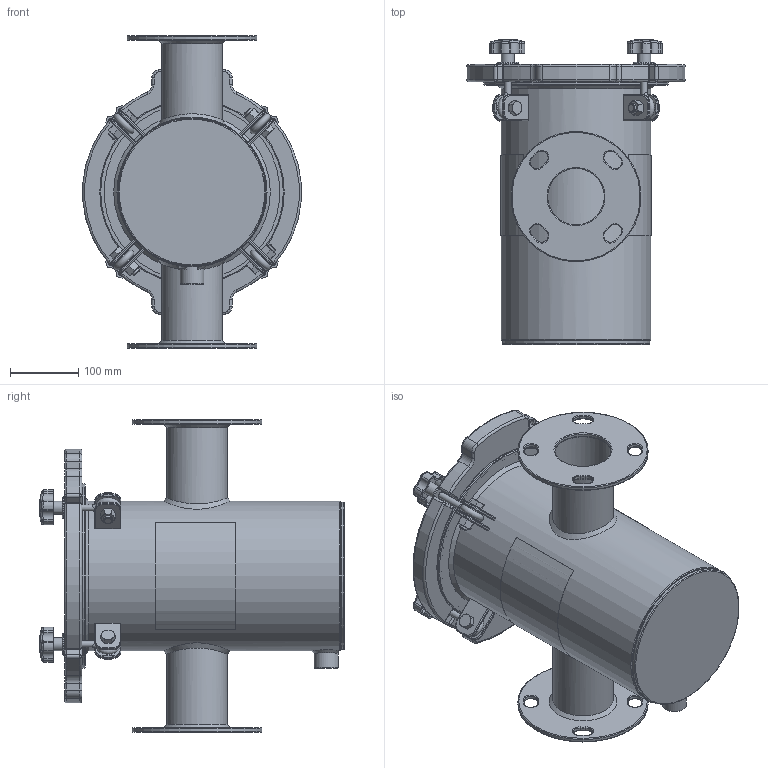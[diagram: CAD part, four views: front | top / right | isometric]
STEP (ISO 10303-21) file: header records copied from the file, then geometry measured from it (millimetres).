
FILE_DESCRIPTION(/* description */ ('8 5/8" STRAINER BODY'),/* implementation_level */ '2;1');
FILE_NAME(/* name */ 'X:\WIP\Ready for delivery - Do not Disturb -Updated with metric Flange\Workspace\SS Straight\150NBSTL03.stp',/* time_stamp */ '2016-09-29T19:48:17+05:00',/* author */ ('20093558'),/* organization */ (''),/* preprocessor_version */ 'ST-DEVELOPER v16.1',/* originating_system */ 'Autodesk Inventor 2016',/* authorisation */ '');
FILE_SCHEMA (('AUTOMOTIVE_DESIGN { 1 0 10303 214 3 1 1 }'));
Length unit declared in the file: inch
Products named in the file (28): NBSSBODY03_Welds; FOR NBSSBODY03; FOR 8 5(_FS)8 DIA STRAINER BODY; FOR 8 5(_FS)8 DIA STRAINER BODY_1; 8 5(_FS)8 Body; ConcentricPipe-3(_DQ); 3(_DQ); For 8 5(_FS)8 Body; ASME B16.11 Half Coupling Threaded - Class 3000 3_4 x 3_4; 8 5(_FS)8 Body_1; NBSSBODY03; 150NBCVR13R1; 150NBGSK08R1; Perforated Basket 8in; Bride (Ring) 8in; Baffle 8in; Handle 8in; Bottom Strainer 8in; NBBSK04T316; Nut- 1_2  UNC; Bolt-1_2 x 1 1_2  UNC; EyeBolt; Washer; Knob M10; Securing Assembly without Brace; Label for 8.625 inch (Right); Label for 8.625 inch (Left); Guardian SS H&L Strainer (Inch)
Assembly tree (42 placements, depth 3):
  Guardian SS H&L Strainer (Inch)
    NBSSBODY03
      NBSSBODY03_Welds
      FOR NBSSBODY03
      FOR 8 5(_FS)8 DIA STRAINER BODY
      FOR 8 5(_FS)8 DIA STRAINER BODY_1
      8 5(_FS)8 Body  x4
      ConcentricPipe-3(_DQ)  x2
      3(_DQ)  x2
      For 8 5(_FS)8 Body
      ASME B16.11 Half Coupling Threaded - Class 3000 3_4 x 3_4
      8 5(_FS)8 Body_1  x8
    150NBCVR13R1
    150NBGSK08R1
    NBBSK04T316
      Perforated Basket 8in
      Bride (Ring) 8in
      Baffle 8in
      Handle 8in
      Bottom Strainer 8in
    Securing Assembly without Brace  x4
      Nut- 1_2  UNC
      Bolt-1_2 x 1 1_2  UNC
      EyeBolt
      Washer
      Knob M10
    Label for 8.625 inch (Right)
    Label for 8.625 inch (Left)
Bounding box: 319.64 x 446.18 x 457.2 mm (x, y, z)
Volume: 4542403 mm3; surface area: 1736622.9 mm2
Topology: 65 solids, 65 shells, 1222 faces, 2715 edges, 1613 vertices
Faces by surface type: cylinder 434, plane 368, torus 195, cone 97, bspline 68, sphere 60
Full cylindrical faces by diameter (mm): 3.175 x10, 6.35 x1, 8.382 x4, 9.525 x8, 10.592 x4, 12.7 x4, 15.875 x8, 19 x8, 19.05 x4, 22.8 x1, 22.809 x1, 31.75 x4, 35.052 x1, 82.55 x2, 83.342 x4, 88.9 x6, 142.875 x2, 146.05 x1, 148.59 x1, 190.5 x2, 211.534 x3, 212.725 x1, 215.9 x2, 219.075 x2, 222.25 x1, 257.175 x1, 263.525 x1, 269.875 x1
Entity records: 22129 total; most frequent: CARTESIAN_POINT 7501, DIRECTION 3130, ORIENTED_EDGE 2584, AXIS2_PLACEMENT_3D 1302, EDGE_CURVE 1292, VERTEX_POINT 832, EDGE_LOOP 768, ADVANCED_FACE 616
